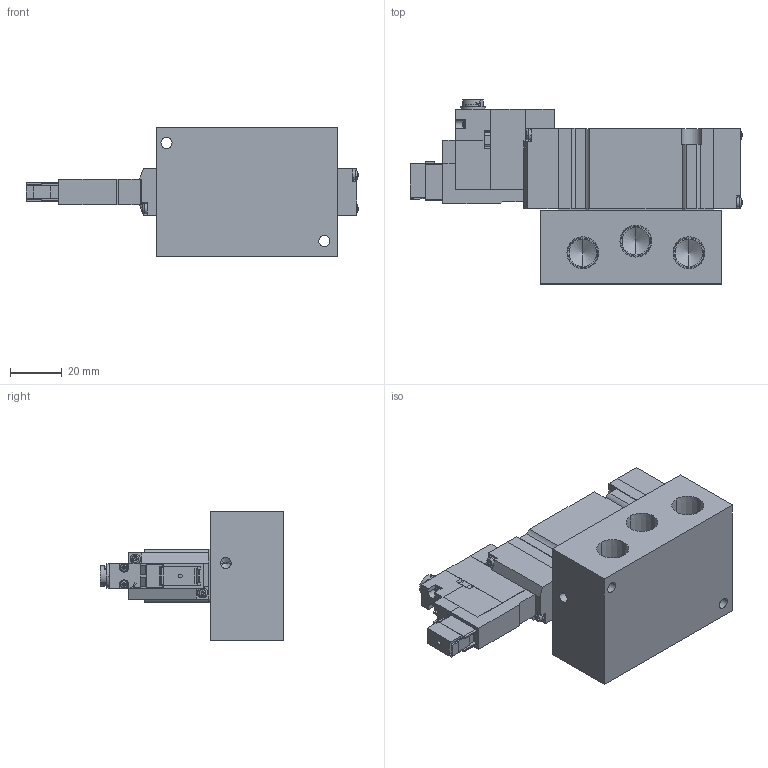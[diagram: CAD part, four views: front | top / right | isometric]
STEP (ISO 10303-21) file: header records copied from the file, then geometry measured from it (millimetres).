
FILE_DESCRIPTION (( 'STEP AP203' ), '1' );
FILE_NAME ('A20GS25#-#-#-E.STEP', '2016-02-04T02:44:14', ( 'Sam Lin' ), ( '' ), 'SwSTEP 2.0', 'SolidWorks 2013', '' );
FILE_SCHEMA (( 'CONFIG_CONTROL_DESIGN' ));
Length unit declared in the file: metre
Products named in the file (19): A20G-1; A05RS25-4; A20G-3; ISO 7045 - M1.6 x 10; A20P底座; A20G-2; A05RS25-5; A20P-1; A20GS25#-#-#-E; A05RS25-6; A20P-2; DC24-A05F-1; ISO 7045 - M2.5 x 8-D4; DC24-A05G-2; A20P-3; DC24-A05G-3; mark-ADEX-A20; DC24-A05F-2; A05RS25-3
Assembly tree (23 placements, depth 2):
  A20GS25#-#-#-E
    A20P底座
    A20P-1
    A20P-2
    ISO 7045 - M2.5 x 8-D4  x4
    A20P-3
    mark-ADEX-A20
    A05RS25-3
    A05RS25-4
    ISO 7045 - M1.6 x 10  x2
    A05RS25-5
    A05RS25-6  x2
    DC24-A05F-1
    DC24-A05G-2
    DC24-A05G-3
    DC24-A05F-2
    A20G-1
    A20G-3
    A20G-2
Bounding box: 128.3 x 71.1 x 50 mm (x, y, z)
Volume: 147255.8 mm3; surface area: 41649.1 mm2
Topology: 31 solids, 31 shells, 721 faces, 1836 edges, 1174 vertices
Faces by surface type: plane 466, cylinder 131, cone 78, bspline 46
Entity records: 20254 total; most frequent: CARTESIAN_POINT 4955, ORIENTED_EDGE 2736, DIRECTION 2680, EDGE_CURVE 1368, VECTOR 964, LINE 964, VERTEX_POINT 900, AXIS2_PLACEMENT_3D 858
